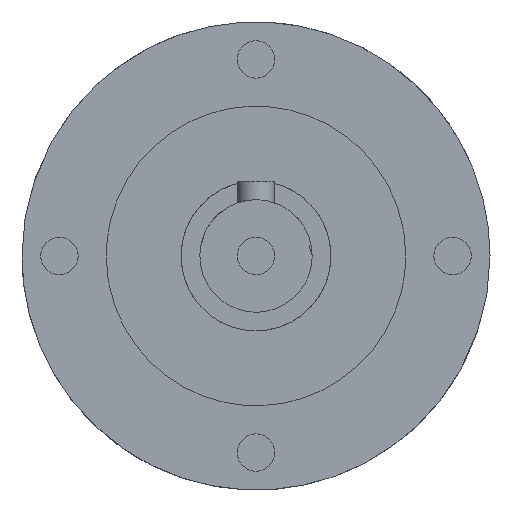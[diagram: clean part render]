
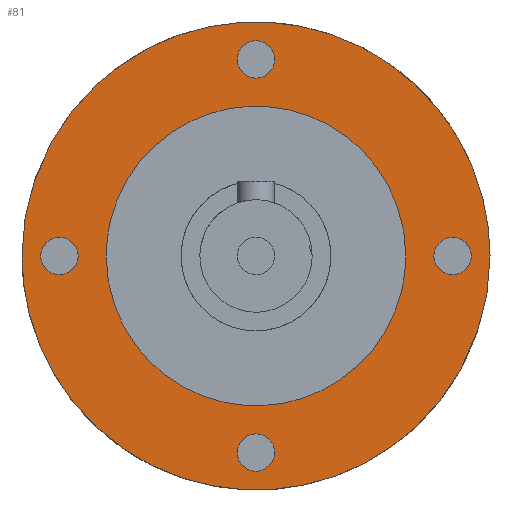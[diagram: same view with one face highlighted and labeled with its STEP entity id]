
A CAD part, front view. The second image highlights one B-rep face of the part: STEP entity #81.
In plain terms, the highlighted planar face has unit normal (0, -1, 0).
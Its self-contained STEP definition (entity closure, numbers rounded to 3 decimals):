
#81=ADVANCED_FACE('',(#151,#105,#106,#107,#108),#796,.T.);
#105=FACE_BOUND('',#218,.T.);
#106=FACE_BOUND('',#219,.T.);
#107=FACE_BOUND('',#220,.T.);
#108=FACE_BOUND('',#221,.T.);
#151=FACE_OUTER_BOUND('',#217,.T.);
#217=EDGE_LOOP('',(#393,#394));
#218=EDGE_LOOP('',(#395,#396));
#219=EDGE_LOOP('',(#397,#398));
#220=EDGE_LOOP('',(#399,#400));
#221=EDGE_LOOP('',(#401,#402));
#393=ORIENTED_EDGE('',*,*,#568,.F.);
#394=ORIENTED_EDGE('',*,*,#538,.F.);
#395=ORIENTED_EDGE('',*,*,#540,.T.);
#396=ORIENTED_EDGE('',*,*,#556,.T.);
#397=ORIENTED_EDGE('',*,*,#559,.F.);
#398=ORIENTED_EDGE('',*,*,#543,.F.);
#399=ORIENTED_EDGE('',*,*,#562,.F.);
#400=ORIENTED_EDGE('',*,*,#546,.F.);
#401=ORIENTED_EDGE('',*,*,#549,.T.);
#402=ORIENTED_EDGE('',*,*,#565,.T.);
#538=EDGE_CURVE('',#732,#751,#653,.T.);
#540=EDGE_CURVE('',#734,#743,#655,.T.);
#543=EDGE_CURVE('',#736,#745,#658,.T.);
#546=EDGE_CURVE('',#738,#747,#661,.T.);
#549=EDGE_CURVE('',#740,#749,#664,.T.);
#556=EDGE_CURVE('',#743,#734,#669,.T.);
#559=EDGE_CURVE('',#745,#736,#672,.T.);
#562=EDGE_CURVE('',#747,#738,#675,.T.);
#565=EDGE_CURVE('',#749,#740,#678,.T.);
#568=EDGE_CURVE('',#751,#732,#681,.T.);
#653=(
BOUNDED_CURVE()
B_SPLINE_CURVE(2,(#2143,#2144,#2145,#2146,#2147),.UNSPECIFIED.,.F.,.F.)
B_SPLINE_CURVE_WITH_KNOTS((3,2,3),(-157.08,-117.81,-78.54),
 .UNSPECIFIED.)
CURVE()
GEOMETRIC_REPRESENTATION_ITEM()
RATIONAL_B_SPLINE_CURVE((1.,0.707,1.,0.707,1.))
REPRESENTATION_ITEM('')
);
#655=(
BOUNDED_CURVE()
B_SPLINE_CURVE(2,(#2150,#2151,#2152,#2153,#2154),.UNSPECIFIED.,.F.,.F.)
B_SPLINE_CURVE_WITH_KNOTS((3,2,3),(-12.566,-9.425,
-6.283),.UNSPECIFIED.)
CURVE()
GEOMETRIC_REPRESENTATION_ITEM()
RATIONAL_B_SPLINE_CURVE((1.,0.707,1.,0.707,1.))
REPRESENTATION_ITEM('')
);
#658=(
BOUNDED_CURVE()
B_SPLINE_CURVE(2,(#2162,#2163,#2164,#2165,#2166),.UNSPECIFIED.,.F.,.F.)
B_SPLINE_CURVE_WITH_KNOTS((3,2,3),(-12.566,-9.425,
-6.283),.UNSPECIFIED.)
CURVE()
GEOMETRIC_REPRESENTATION_ITEM()
RATIONAL_B_SPLINE_CURVE((1.,0.707,1.,0.707,1.))
REPRESENTATION_ITEM('')
);
#661=(
BOUNDED_CURVE()
B_SPLINE_CURVE(2,(#2174,#2175,#2176,#2177,#2178),.UNSPECIFIED.,.F.,.F.)
B_SPLINE_CURVE_WITH_KNOTS((3,2,3),(-12.566,-9.425,
-6.283),.UNSPECIFIED.)
CURVE()
GEOMETRIC_REPRESENTATION_ITEM()
RATIONAL_B_SPLINE_CURVE((1.,0.707,1.,0.707,1.))
REPRESENTATION_ITEM('')
);
#664=(
BOUNDED_CURVE()
B_SPLINE_CURVE(2,(#2186,#2187,#2188,#2189,#2190),.UNSPECIFIED.,.F.,.F.)
B_SPLINE_CURVE_WITH_KNOTS((3,2,3),(-12.566,-9.425,
-6.283),.UNSPECIFIED.)
CURVE()
GEOMETRIC_REPRESENTATION_ITEM()
RATIONAL_B_SPLINE_CURVE((1.,0.707,1.,0.707,1.))
REPRESENTATION_ITEM('')
);
#669=(
BOUNDED_CURVE()
B_SPLINE_CURVE(2,(#2225,#2226,#2227,#2228,#2229),.UNSPECIFIED.,.F.,.F.)
B_SPLINE_CURVE_WITH_KNOTS((3,2,3),(-6.283,-3.142,
0.),.UNSPECIFIED.)
CURVE()
GEOMETRIC_REPRESENTATION_ITEM()
RATIONAL_B_SPLINE_CURVE((1.,0.707,1.,0.707,1.))
REPRESENTATION_ITEM('')
);
#672=(
BOUNDED_CURVE()
B_SPLINE_CURVE(2,(#2237,#2238,#2239,#2240,#2241),.UNSPECIFIED.,.F.,.F.)
B_SPLINE_CURVE_WITH_KNOTS((3,2,3),(-6.283,-3.142,
0.),.UNSPECIFIED.)
CURVE()
GEOMETRIC_REPRESENTATION_ITEM()
RATIONAL_B_SPLINE_CURVE((1.,0.707,1.,0.707,1.))
REPRESENTATION_ITEM('')
);
#675=(
BOUNDED_CURVE()
B_SPLINE_CURVE(2,(#2249,#2250,#2251,#2252,#2253),.UNSPECIFIED.,.F.,.F.)
B_SPLINE_CURVE_WITH_KNOTS((3,2,3),(-6.283,-3.142,
0.),.UNSPECIFIED.)
CURVE()
GEOMETRIC_REPRESENTATION_ITEM()
RATIONAL_B_SPLINE_CURVE((1.,0.707,1.,0.707,1.))
REPRESENTATION_ITEM('')
);
#678=(
BOUNDED_CURVE()
B_SPLINE_CURVE(2,(#2261,#2262,#2263,#2264,#2265),.UNSPECIFIED.,.F.,.F.)
B_SPLINE_CURVE_WITH_KNOTS((3,2,3),(-6.283,-3.142,
0.),.UNSPECIFIED.)
CURVE()
GEOMETRIC_REPRESENTATION_ITEM()
RATIONAL_B_SPLINE_CURVE((1.,0.707,1.,0.707,1.))
REPRESENTATION_ITEM('')
);
#681=(
BOUNDED_CURVE()
B_SPLINE_CURVE(2,(#2273,#2274,#2275,#2276,#2277),.UNSPECIFIED.,.F.,.F.)
B_SPLINE_CURVE_WITH_KNOTS((3,2,3),(-78.54,-39.27,
0.),.UNSPECIFIED.)
CURVE()
GEOMETRIC_REPRESENTATION_ITEM()
RATIONAL_B_SPLINE_CURVE((1.,0.707,1.,0.707,1.))
REPRESENTATION_ITEM('')
);
#732=VERTEX_POINT('',#2121);
#734=VERTEX_POINT('',#2123);
#736=VERTEX_POINT('',#2125);
#738=VERTEX_POINT('',#2127);
#740=VERTEX_POINT('',#2129);
#743=VERTEX_POINT('',#2132);
#745=VERTEX_POINT('',#2134);
#747=VERTEX_POINT('',#2136);
#749=VERTEX_POINT('',#2138);
#751=VERTEX_POINT('',#2140);
#796=PLANE('',#838);
#838=AXIS2_PLACEMENT_3D('',#1943,#863,$);
#863=DIRECTION('',(0.,-1.,0.));
#1943=CARTESIAN_POINT('',(-25.5,0.,25.5));
#2121=CARTESIAN_POINT('',(25.,0.,0.));
#2123=CARTESIAN_POINT('',(2.,0.,21.));
#2125=CARTESIAN_POINT('',(21.,0.,2.));
#2127=CARTESIAN_POINT('',(2.001,0.,-21.001));
#2129=CARTESIAN_POINT('',(-21.001,0.,2.001));
#2132=CARTESIAN_POINT('',(-2.,0.,21.));
#2134=CARTESIAN_POINT('',(21.,0.,-2.));
#2136=CARTESIAN_POINT('',(-1.999,0.,-21.001));
#2138=CARTESIAN_POINT('',(-21.001,0.,-1.999));
#2140=CARTESIAN_POINT('',(-25.,0.,0.));
#2143=CARTESIAN_POINT('',(25.,0.,0.));
#2144=CARTESIAN_POINT('',(25.,0.,-25.));
#2145=CARTESIAN_POINT('',(0.,0.,-25.));
#2146=CARTESIAN_POINT('',(-25.,0.,-25.));
#2147=CARTESIAN_POINT('',(-25.,0.,0.));
#2150=CARTESIAN_POINT('',(2.,0.,21.));
#2151=CARTESIAN_POINT('',(2.,0.,19.));
#2152=CARTESIAN_POINT('',(0.,0.,19.));
#2153=CARTESIAN_POINT('',(-2.,0.,19.));
#2154=CARTESIAN_POINT('',(-2.,0.,21.));
#2162=CARTESIAN_POINT('',(21.,0.,2.));
#2163=CARTESIAN_POINT('',(19.,0.,2.));
#2164=CARTESIAN_POINT('',(19.,0.,0.));
#2165=CARTESIAN_POINT('',(19.,0.,-2.));
#2166=CARTESIAN_POINT('',(21.,0.,-2.));
#2174=CARTESIAN_POINT('',(2.001,0.,-21.001));
#2175=CARTESIAN_POINT('',(2.001,0.,-19.001));
#2176=CARTESIAN_POINT('',(0.001,0.,-19.001));
#2177=CARTESIAN_POINT('',(-1.999,0.,-19.001));
#2178=CARTESIAN_POINT('',(-1.999,0.,-21.001));
#2186=CARTESIAN_POINT('',(-21.001,0.,2.001));
#2187=CARTESIAN_POINT('',(-19.001,0.,2.001));
#2188=CARTESIAN_POINT('',(-19.001,0.,0.001));
#2189=CARTESIAN_POINT('',(-19.001,0.,-1.999));
#2190=CARTESIAN_POINT('',(-21.001,0.,-1.999));
#2225=CARTESIAN_POINT('',(-2.,0.,21.));
#2226=CARTESIAN_POINT('',(-2.,0.,23.));
#2227=CARTESIAN_POINT('',(0.,0.,23.));
#2228=CARTESIAN_POINT('',(2.,0.,23.));
#2229=CARTESIAN_POINT('',(2.,0.,21.));
#2237=CARTESIAN_POINT('',(21.,0.,-2.));
#2238=CARTESIAN_POINT('',(23.,0.,-2.));
#2239=CARTESIAN_POINT('',(23.,0.,0.));
#2240=CARTESIAN_POINT('',(23.,0.,2.));
#2241=CARTESIAN_POINT('',(21.,0.,2.));
#2249=CARTESIAN_POINT('',(-1.999,0.,-21.001));
#2250=CARTESIAN_POINT('',(-1.999,0.,-23.001));
#2251=CARTESIAN_POINT('',(0.001,0.,-23.001));
#2252=CARTESIAN_POINT('',(2.001,0.,-23.001));
#2253=CARTESIAN_POINT('',(2.001,0.,-21.001));
#2261=CARTESIAN_POINT('',(-21.001,0.,-1.999));
#2262=CARTESIAN_POINT('',(-23.001,0.,-1.999));
#2263=CARTESIAN_POINT('',(-23.001,0.,0.001));
#2264=CARTESIAN_POINT('',(-23.001,0.,2.001));
#2265=CARTESIAN_POINT('',(-21.001,0.,2.001));
#2273=CARTESIAN_POINT('',(-25.,0.,0.));
#2274=CARTESIAN_POINT('',(-25.,0.,25.));
#2275=CARTESIAN_POINT('',(0.,0.,25.));
#2276=CARTESIAN_POINT('',(25.,0.,25.));
#2277=CARTESIAN_POINT('',(25.,0.,0.));
